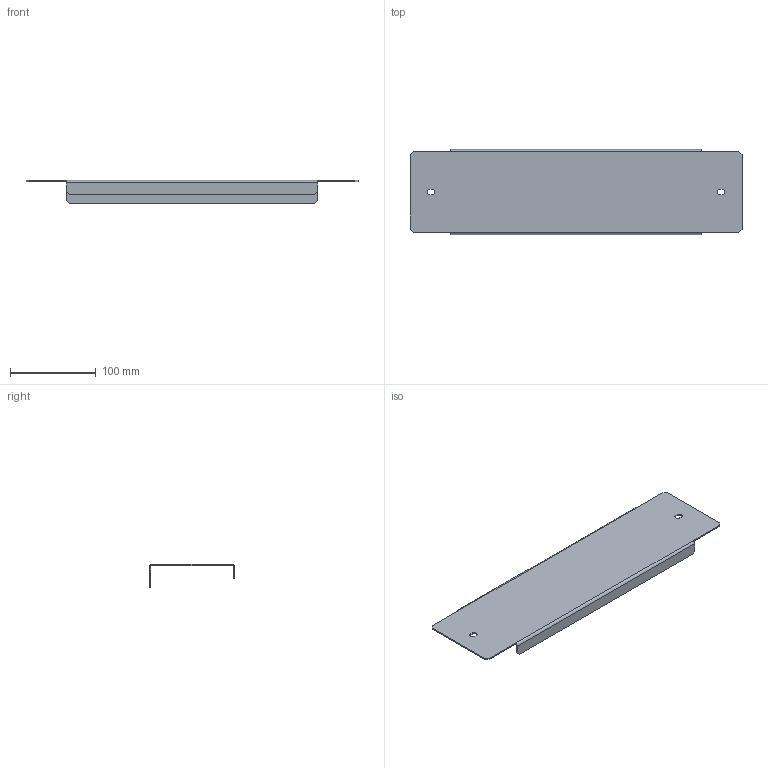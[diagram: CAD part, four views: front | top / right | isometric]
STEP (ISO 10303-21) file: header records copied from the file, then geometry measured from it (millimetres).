
FILE_DESCRIPTION (( 'STEP AP203' ), '1' );
FILE_NAME ('ZA 50 Ïàíåëü öîêîëÿ.STEP', '2012-11-20T05:10:58', ( 'system' ), ( '' ), 'SwSTEP 2.0', 'SolidWorks 2012', '' );
FILE_SCHEMA (( 'CONFIG_CONTROL_DESIGN' ));
Length unit declared in the file: millimetre
Products named in the file (1): ZA 50 Ïàíåëü öîêîëÿ
Bounding box: 386.5 x 99 x 27 mm (x, y, z)
Volume: 68410 mm3; surface area: 99244.3 mm2
Topology: 1 solids, 1 shells, 44 faces, 110 edges, 68 vertices
Faces by surface type: plane 34, cylinder 10
Entity records: 1371 total; most frequent: CARTESIAN_POINT 223, DIRECTION 220, ORIENTED_EDGE 220, EDGE_CURVE 110, LINE 90, VECTOR 90, VERTEX_POINT 68, AXIS2_PLACEMENT_3D 65
